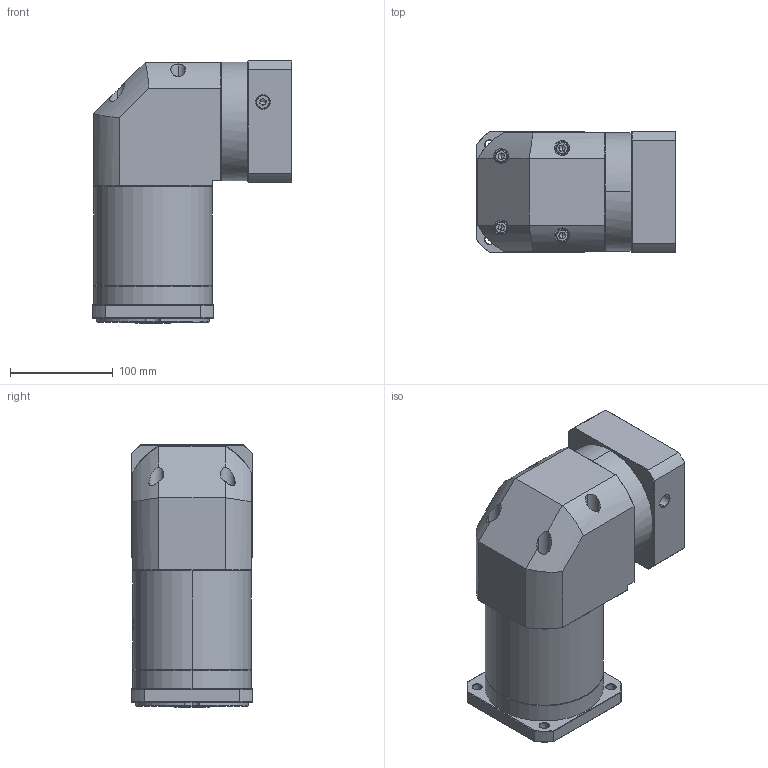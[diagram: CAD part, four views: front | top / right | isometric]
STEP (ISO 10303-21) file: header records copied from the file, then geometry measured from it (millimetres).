
FILE_DESCRIPTION (( 'STEP AP214' ), '1' );
FILE_NAME ('ZFR120A-K25-L3-P2-19-95-130-M8.step', '2023-08-27T08:17:10', ( '' ), ( '' ), 'SwSTEP 2.0', 'SolidWorks 2016', '' );
FILE_SCHEMA (( 'AUTOMOTIVE_DESIGN' ));
Length unit declared in the file: millimetre
Products named in the file (1): ZFR120A-K25-L3-P2-19-95-130-M8
Bounding box: 193.9 x 118 x 255 mm (x, y, z)
Volume: 3443526.3 mm3; surface area: 262533.9 mm2
Topology: 6 solids, 6 shells, 2208 faces, 5837 edges, 3734 vertices
Faces by surface type: plane 1054, bspline 415, cylinder 401, cone 330, torus 8
Entity records: 118735 total; most frequent: CARTESIAN_POINT 45057, ORIENTED_EDGE 11618, DIRECTION 8445, EDGE_CURVE 5809, VERTEX_POINT 3734, VECTOR 3105, LINE 3105, AXIS2_PLACEMENT_3D 2670
